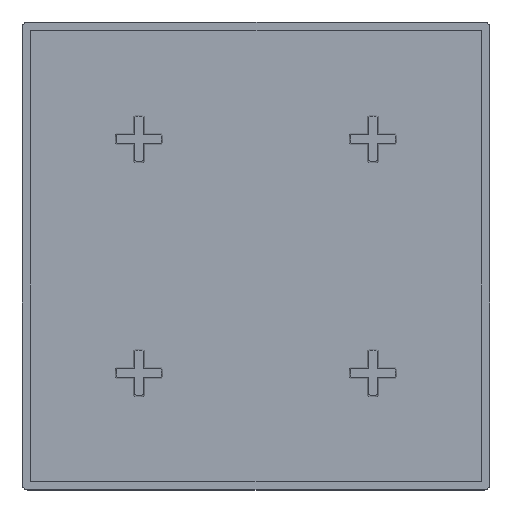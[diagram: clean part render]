
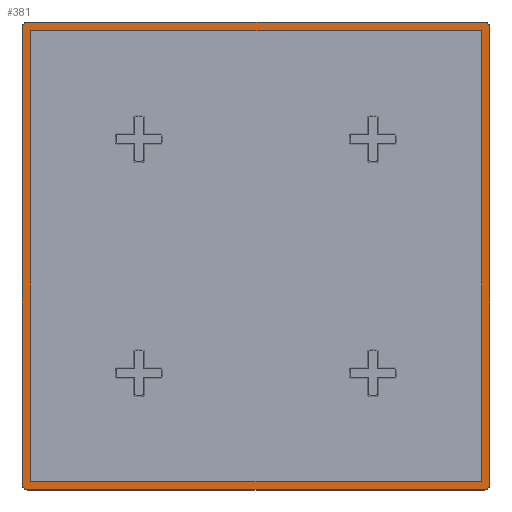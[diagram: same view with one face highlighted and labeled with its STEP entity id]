
A CAD part, top view. The second image highlights one B-rep face of the part: STEP entity #381.
In plain terms, the highlighted planar face has unit normal (0, 0, 1).
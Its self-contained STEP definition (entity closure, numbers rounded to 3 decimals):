
#31 = CARTESIAN_POINT ( 'NONE',  ( 40., -39., 5. ) ) ;
#37 = ORIENTED_EDGE ( 'NONE', *, *, #100, .T. ) ;
#55 = DIRECTION ( 'NONE',  ( 0., 0., -1. ) ) ;
#100 = EDGE_CURVE ( 'NONE', #2308, #853, #1278, .T. ) ;
#125 = CARTESIAN_POINT ( 'NONE',  ( -39., 39., 5. ) ) ;
#155 = EDGE_LOOP ( 'NONE', ( #2267, #272, #1871, #2513 ) ) ;
#188 = EDGE_CURVE ( 'NONE', #1399, #2223, #1517, .T. ) ;
#252 = VERTEX_POINT ( 'NONE', #2286 ) ;
#254 = CARTESIAN_POINT ( 'NONE',  ( -40., -39., 5. ) ) ;
#255 = DIRECTION ( 'NONE',  ( 1., 0., 0. ) ) ;
#268 = DIRECTION ( 'NONE',  ( 0., 0., 1. ) ) ;
#272 = ORIENTED_EDGE ( 'NONE', *, *, #1104, .T. ) ;
#278 = EDGE_CURVE ( 'NONE', #1047, #1328, #2088, .T. ) ;
#355 = VECTOR ( 'NONE', #938, 1000. ) ;
#381 = ADVANCED_FACE ( 'NONE', ( #676, #1420 ), #2508, .T. ) ;
#385 = CARTESIAN_POINT ( 'NONE',  ( 40., -40., 5. ) ) ;
#410 = CARTESIAN_POINT ( 'NONE',  ( 39., 39., 5. ) ) ;
#448 = DIRECTION ( 'NONE',  ( 0., 0., 1. ) ) ;
#459 = AXIS2_PLACEMENT_3D ( 'NONE', #483, #448, #597 ) ;
#483 = CARTESIAN_POINT ( 'NONE',  ( -39., -39., 5. ) ) ;
#568 = CARTESIAN_POINT ( 'NONE',  ( 40., 40., 5. ) ) ;
#585 = ORIENTED_EDGE ( 'NONE', *, *, #832, .F. ) ;
#588 = CIRCLE ( 'NONE', #841, 1. ) ;
#597 = DIRECTION ( 'NONE',  ( 1., 0., 0. ) ) ;
#659 = DIRECTION ( 'NONE',  ( 1., 0., 0. ) ) ;
#666 = CARTESIAN_POINT ( 'NONE',  ( 40., 39., 5. ) ) ;
#676 = FACE_OUTER_BOUND ( 'NONE', #1215, .T. ) ;
#753 = LINE ( 'NONE', #2078, #2329 ) ;
#768 = LINE ( 'NONE', #1665, #1705 ) ;
#775 = DIRECTION ( 'NONE',  ( 0., 0., 1. ) ) ;
#813 = CARTESIAN_POINT ( 'NONE',  ( -40., 39., 5. ) ) ;
#832 = EDGE_CURVE ( 'NONE', #1845, #2314, #1391, .T. ) ;
#841 = AXIS2_PLACEMENT_3D ( 'NONE', #410, #268, #255 ) ;
#853 = VERTEX_POINT ( 'NONE', #813 ) ;
#898 = AXIS2_PLACEMENT_3D ( 'NONE', #125, #775, #907 ) ;
#903 = AXIS2_PLACEMENT_3D ( 'NONE', #1214, #55, #1400 ) ;
#907 = DIRECTION ( 'NONE',  ( 1., 0., 0. ) ) ;
#908 = EDGE_CURVE ( 'NONE', #1047, #853, #768, .T. ) ;
#938 = DIRECTION ( 'NONE',  ( -1., 0., 0. ) ) ;
#964 = VERTEX_POINT ( 'NONE', #2395 ) ;
#975 = CARTESIAN_POINT ( 'NONE',  ( -39., -40., 5. ) ) ;
#983 = VECTOR ( 'NONE', #1521, 1000. ) ;
#985 = CARTESIAN_POINT ( 'NONE',  ( 0., -38.5, 5. ) ) ;
#1045 = ORIENTED_EDGE ( 'NONE', *, *, #2420, .F. ) ;
#1047 = VERTEX_POINT ( 'NONE', #254 ) ;
#1104 = EDGE_CURVE ( 'NONE', #2451, #1399, #1862, .T. ) ;
#1143 = VECTOR ( 'NONE', #659, 1000. ) ;
#1175 = CARTESIAN_POINT ( 'NONE',  ( -38.5, 0., 5. ) ) ;
#1195 = LINE ( 'NONE', #385, #355 ) ;
#1205 = EDGE_CURVE ( 'NONE', #1845, #252, #588, .T. ) ;
#1214 = CARTESIAN_POINT ( 'NONE',  ( 39., -39., 5. ) ) ;
#1215 = EDGE_LOOP ( 'NONE', ( #2291, #585, #1628, #1045, #37, #1799, #1354, #2280 ) ) ;
#1249 = VERTEX_POINT ( 'NONE', #1536 ) ;
#1278 = CIRCLE ( 'NONE', #898, 1. ) ;
#1313 = DIRECTION ( 'NONE',  ( 1., 0., 0. ) ) ;
#1328 = VERTEX_POINT ( 'NONE', #975 ) ;
#1354 = ORIENTED_EDGE ( 'NONE', *, *, #278, .T. ) ;
#1391 = LINE ( 'NONE', #568, #1936 ) ;
#1399 = VERTEX_POINT ( 'NONE', #1919 ) ;
#1400 = DIRECTION ( 'NONE',  ( 1., 0., 0. ) ) ;
#1414 = EDGE_CURVE ( 'NONE', #2223, #1249, #1515, .T. ) ;
#1420 = FACE_BOUND ( 'NONE', #155, .T. ) ;
#1479 = CARTESIAN_POINT ( 'NONE',  ( 0., 38.5, 5. ) ) ;
#1488 = AXIS2_PLACEMENT_3D ( 'NONE', #2398, #2391, #2381 ) ;
#1515 = LINE ( 'NONE', #1479, #1604 ) ;
#1517 = LINE ( 'NONE', #1175, #1643 ) ;
#1521 = DIRECTION ( 'NONE',  ( -1., 0., 0. ) ) ;
#1536 = CARTESIAN_POINT ( 'NONE',  ( 38.5, 38.5, 5. ) ) ;
#1588 = CIRCLE ( 'NONE', #903, 1. ) ;
#1604 = VECTOR ( 'NONE', #1313, 1000. ) ;
#1628 = ORIENTED_EDGE ( 'NONE', *, *, #1205, .T. ) ;
#1643 = VECTOR ( 'NONE', #2090, 1000. ) ;
#1665 = CARTESIAN_POINT ( 'NONE',  ( -40., -40., 5. ) ) ;
#1685 = CARTESIAN_POINT ( 'NONE',  ( -38.5, 38.5, 5. ) ) ;
#1705 = VECTOR ( 'NONE', #1984, 1000. ) ;
#1777 = EDGE_CURVE ( 'NONE', #1249, #2451, #753, .T. ) ;
#1799 = ORIENTED_EDGE ( 'NONE', *, *, #908, .F. ) ;
#1832 = DIRECTION ( 'NONE',  ( 0., -1., 0. ) ) ;
#1845 = VERTEX_POINT ( 'NONE', #666 ) ;
#1862 = LINE ( 'NONE', #985, #983 ) ;
#1871 = ORIENTED_EDGE ( 'NONE', *, *, #188, .T. ) ;
#1919 = CARTESIAN_POINT ( 'NONE',  ( -38.5, -38.5, 5. ) ) ;
#1936 = VECTOR ( 'NONE', #2131, 1000. ) ;
#1984 = DIRECTION ( 'NONE',  ( 0., 1., 0. ) ) ;
#2028 = CARTESIAN_POINT ( 'NONE',  ( -40., 40., 5. ) ) ;
#2035 = CARTESIAN_POINT ( 'NONE',  ( 38.5, -38.5, 5. ) ) ;
#2078 = CARTESIAN_POINT ( 'NONE',  ( 38.5, 0., 5. ) ) ;
#2088 = CIRCLE ( 'NONE', #459, 1. ) ;
#2090 = DIRECTION ( 'NONE',  ( 0., 1., 0. ) ) ;
#2131 = DIRECTION ( 'NONE',  ( 0., -1., 0. ) ) ;
#2223 = VERTEX_POINT ( 'NONE', #1685 ) ;
#2230 = EDGE_CURVE ( 'NONE', #964, #1328, #1195, .T. ) ;
#2267 = ORIENTED_EDGE ( 'NONE', *, *, #1777, .T. ) ;
#2280 = ORIENTED_EDGE ( 'NONE', *, *, #2230, .F. ) ;
#2286 = CARTESIAN_POINT ( 'NONE',  ( 39., 40., 5. ) ) ;
#2291 = ORIENTED_EDGE ( 'NONE', *, *, #2336, .F. ) ;
#2308 = VERTEX_POINT ( 'NONE', #2390 ) ;
#2314 = VERTEX_POINT ( 'NONE', #31 ) ;
#2329 = VECTOR ( 'NONE', #1832, 1000. ) ;
#2336 = EDGE_CURVE ( 'NONE', #2314, #964, #1588, .T. ) ;
#2363 = LINE ( 'NONE', #2028, #1143 ) ;
#2381 = DIRECTION ( 'NONE',  ( 1., 0., 0. ) ) ;
#2390 = CARTESIAN_POINT ( 'NONE',  ( -39., 40., 5. ) ) ;
#2391 = DIRECTION ( 'NONE',  ( 0., 0., 1. ) ) ;
#2395 = CARTESIAN_POINT ( 'NONE',  ( 39., -40., 5. ) ) ;
#2398 = CARTESIAN_POINT ( 'NONE',  ( 0., 0., 5. ) ) ;
#2420 = EDGE_CURVE ( 'NONE', #2308, #252, #2363, .T. ) ;
#2451 = VERTEX_POINT ( 'NONE', #2035 ) ;
#2508 = PLANE ( 'NONE',  #1488 ) ;
#2513 = ORIENTED_EDGE ( 'NONE', *, *, #1414, .T. ) ;
